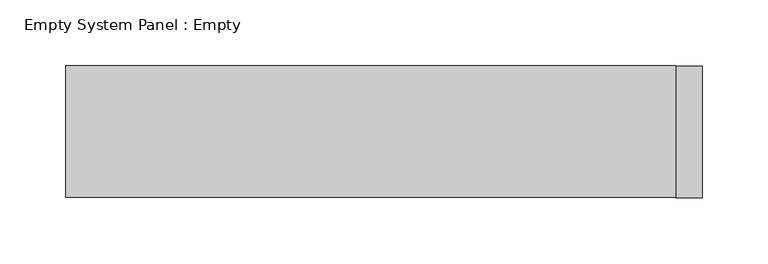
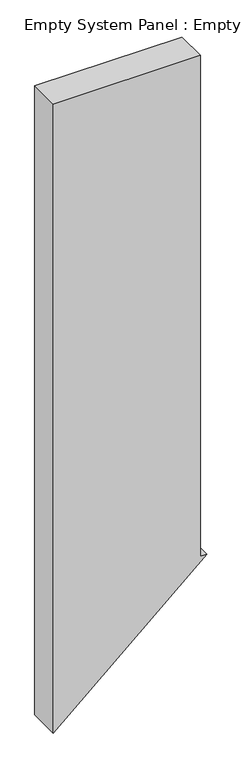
"""IFC4 building model written with IfcOpenShell, lengths in millimetres: plate geometry, Empty System Panel : Empty."""

from ifc_helpers import new_model, si_unit, frame, origin, place, context, project, spatial, polyline, outline, extrude, source, transform, mapped, element, save


def empty_system_panel_empty_8b630a52(model_context):
    return source(origin(), model_context, "Body", "SweptSolid", [
        extrude(outline(polyline([(0.0, -241.7391304), (424.4092097, 241.7391304), (424.4092097, 221.7391304), (2088.2804356, 221.7391304), (2088.2804356, -241.7391304), (0.0, -241.7391304)])), frame((0.0, -50.0, 0.0), z_axis=(0.0, 1.0, 0.0), x_axis=(0.0, 0.0, 1.0)), (0.0, 0.0, 1.0), 100.0),
    ])


if __name__ == "__main__":
    model = new_model("IFC4")
    model_context = context("Model", 3, world=origin())
    ifc_project = project(units=[si_unit("LENGTHUNIT", "METRE", prefix="MILLI")], contexts=[model_context])
    site = spatial("IfcSite", under=ifc_project)
    building = spatial("IfcBuilding", under=site)
    placement = place(None, origin())
    empty_system_panel_empty_shape = empty_system_panel_empty_8b630a52(model_context)
    element("IfcPlate", 1, ObjectType="Empty System Panel : Empty", at=placement, inside=building, context=model_context, shape_type="MappedRepresentation", body=[
        mapped(empty_system_panel_empty_shape, transform((0.0, 0.0, 0.0), x_axis=(1.0, 0.0, 0.0), y_axis=(0.0, 1.0, 0.0), z_axis=(0.0, 0.0, 1.0))),
    ])
    save(model, "model.ifc")
